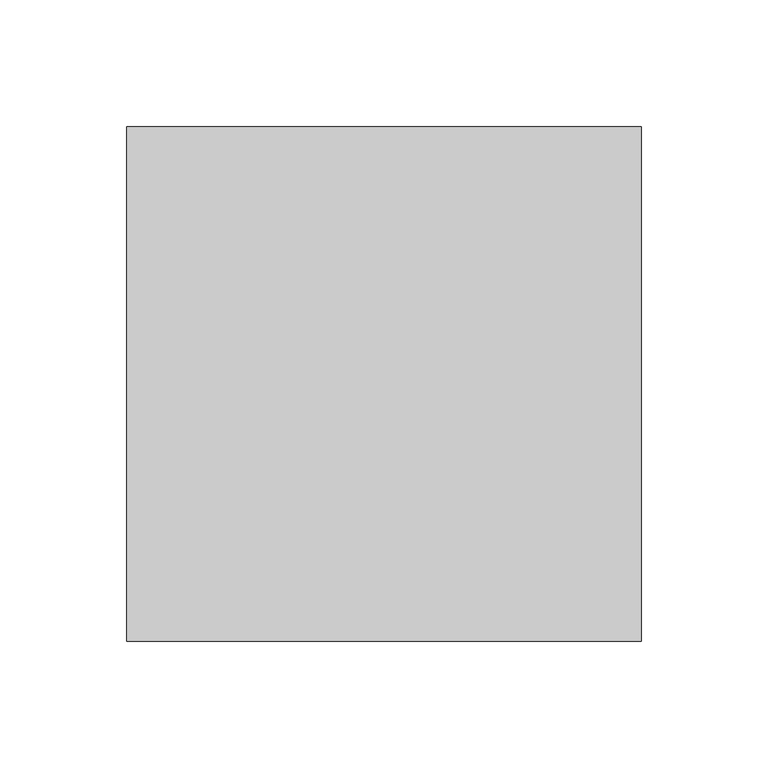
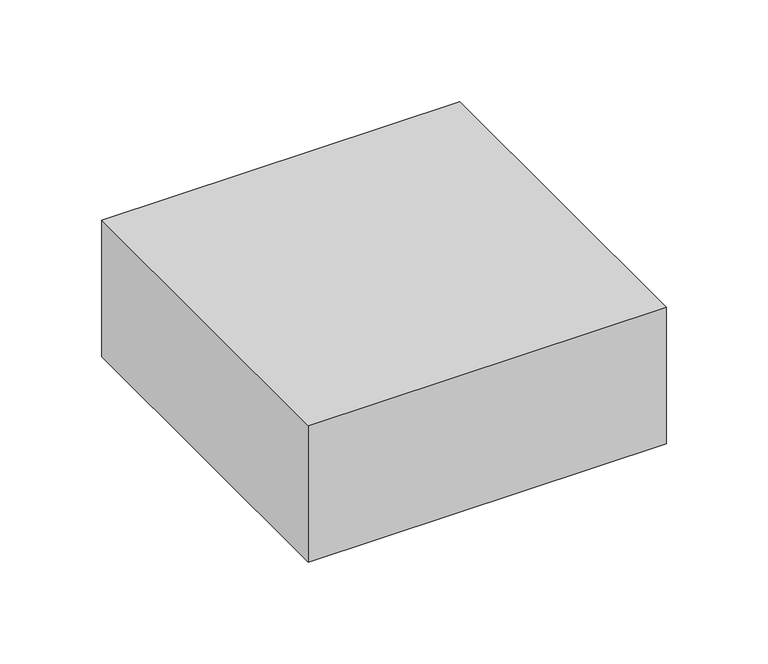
"""IFC4 building model written with IfcOpenShell, lengths in millimetres: proxy geometry, Placeholder_Polyseam : Placeholder_Polyseam."""

from ifc_helpers import new_model, si_unit, origin, origin_with_axes, place, context, project, spatial, polyline, outline, extrude, source, transform, mapped, element, save


def generic_models_f4c7aa00(model_context):
    return source(origin(), model_context, "Body", "SweptSolid", [
        extrude(outline(polyline([(-101.6, 101.6), (101.6, 101.6), (101.6, -101.6), (-101.6, -101.6), (-101.6, 101.6)])), origin_with_axes(), (0.0, 0.0, 1.0), 82.0),
    ])


if __name__ == "__main__":
    model = new_model("IFC4")
    model_context = context("Model", 3, world=origin())
    ifc_project = project(units=[si_unit("LENGTHUNIT", "METRE", prefix="MILLI")], contexts=[model_context])
    site = spatial("IfcSite", under=ifc_project)
    building = spatial("IfcBuilding", under=site)
    placement = place(None, origin())
    generic_models_shape = generic_models_f4c7aa00(model_context)
    element("IfcBuildingElementProxy", 1, Name="Placeholder_Polyseam : Placeholder_Polyseam", ObjectType="Placeholder_Polyseam : Placeholder_Polyseam", at=placement, inside=building, context=model_context, shape_type="MappedRepresentation", body=[
        mapped(generic_models_shape, transform((0.0, 0.0, 0.0), x_axis=(1.0, 0.0, 0.0), y_axis=(0.0, 1.0, 0.0), z_axis=(0.0, 0.0, 1.0))),
    ])
    save(model, "model.ifc")
